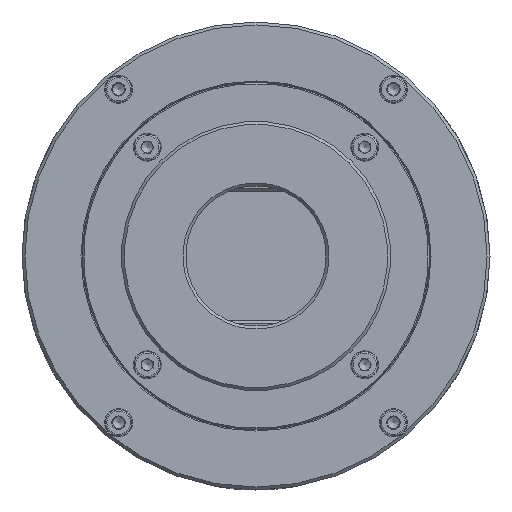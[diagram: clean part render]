
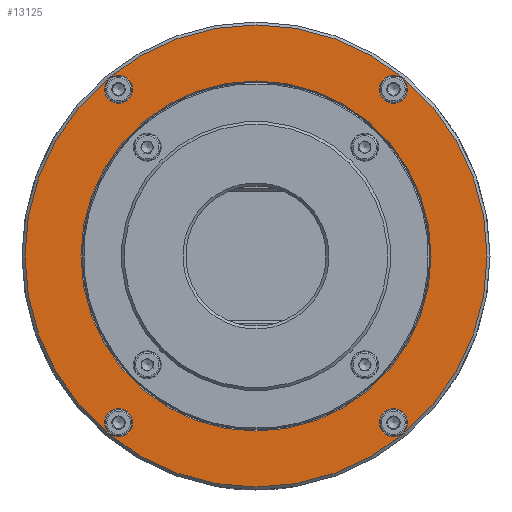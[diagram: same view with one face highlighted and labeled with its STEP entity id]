
A CAD part, front view. The second image highlights one B-rep face of the part: STEP entity #13125.
In plain terms, the highlighted planar face has unit normal (0, -1, 0).
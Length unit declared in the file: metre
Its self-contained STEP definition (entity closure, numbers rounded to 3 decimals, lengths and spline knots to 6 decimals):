
#13125=ADVANCED_FACE('17:85771',(#39166,#39167,#39168,#39169,#39170,#39171),#39172,.T.);
#20749=EDGE_CURVE('17:111547',#51170,#51170,#51171,.T.);
#20751=EDGE_CURVE('17:111550',#51173,#51173,#51174,.T.);
#20753=EDGE_CURVE('17:111553',#51176,#51176,#51177,.T.);
#20755=EDGE_CURVE('17:111556',#51179,#51179,#51180,.T.);
#20757=EDGE_CURVE('17:111559',#51182,#51182,#51183,.T.);
#20759=EDGE_CURVE('17:111562',#51185,#51185,#51186,.T.);
#39166=FACE_OUTER_BOUND('',#75466,.T.);
#39167=FACE_BOUND('',#75467,.T.);
#39168=FACE_BOUND('',#75468,.T.);
#39169=FACE_BOUND('',#75469,.T.);
#39170=FACE_BOUND('',#75470,.T.);
#39171=FACE_BOUND('',#75471,.T.);
#39172=PLANE('',#75472);
#51170=VERTEX_POINT('',#93520);
#51171=CIRCLE('',#93521,0.0395);
#51173=VERTEX_POINT('',#93524);
#51174=CIRCLE('',#93525,0.0024);
#51176=VERTEX_POINT('',#93528);
#51177=CIRCLE('',#93529,0.0024);
#51179=VERTEX_POINT('',#93532);
#51180=CIRCLE('',#93533,0.0024);
#51182=VERTEX_POINT('',#93536);
#51183=CIRCLE('',#93537,0.0024);
#51185=VERTEX_POINT('',#93540);
#51186=CIRCLE('',#93541,0.029925);
#75466=EDGE_LOOP('',(#137746));
#75467=EDGE_LOOP('',(#137747));
#75468=EDGE_LOOP('',(#137748));
#75469=EDGE_LOOP('',(#137749));
#75470=EDGE_LOOP('',(#137750));
#75471=EDGE_LOOP('',(#137751));
#75472=AXIS2_PLACEMENT_3D('',#137752,#137753,#137754);
#93520=CARTESIAN_POINT('',(0.000002,-0.04865,0.066752));
#93521=AXIS2_PLACEMENT_3D('',#170190,#170191,#170192);
#93524=CARTESIAN_POINT('',(0.023502,-0.04865,0.053352));
#93525=AXIS2_PLACEMENT_3D('',#170193,#170194,#170195);
#93528=CARTESIAN_POINT('',(-0.023498,-0.04865,0.053352));
#93529=AXIS2_PLACEMENT_3D('',#170196,#170197,#170198);
#93532=CARTESIAN_POINT('',(0.023502,-0.04865,-0.003648));
#93533=AXIS2_PLACEMENT_3D('',#170199,#170200,#170201);
#93536=CARTESIAN_POINT('',(-0.023498,-0.04865,-0.003648));
#93537=AXIS2_PLACEMENT_3D('',#170202,#170203,#170204);
#93540=CARTESIAN_POINT('',(0.000002,-0.04865,0.057177));
#93541=AXIS2_PLACEMENT_3D('',#170205,#170206,#170207);
#137746=ORIENTED_EDGE('',*,*,#20749,.T.);
#137747=ORIENTED_EDGE('',*,*,#20751,.T.);
#137748=ORIENTED_EDGE('',*,*,#20753,.T.);
#137749=ORIENTED_EDGE('',*,*,#20755,.T.);
#137750=ORIENTED_EDGE('',*,*,#20757,.T.);
#137751=ORIENTED_EDGE('',*,*,#20759,.T.);
#137752=CARTESIAN_POINT('',(0.000002,-0.04865,-0.012748));
#137753=DIRECTION('',(0.,-1.0,0.));
#137754=DIRECTION('',(-1.0,0.,0.0));
#170190=CARTESIAN_POINT('',(0.000002,-0.04865,0.027252));
#170191=DIRECTION('',(0.,-1.0,0.));
#170192=DIRECTION('',(0.,0.,1.0));
#170193=CARTESIAN_POINT('',(0.023502,-0.04865,0.055752));
#170194=DIRECTION('',(0.,1.0,0.));
#170195=DIRECTION('',(0.,0.,-1.0));
#170196=CARTESIAN_POINT('',(-0.023498,-0.04865,0.055752));
#170197=DIRECTION('',(0.,1.0,0.));
#170198=DIRECTION('',(0.,0.,-1.0));
#170199=CARTESIAN_POINT('',(0.023502,-0.04865,-0.001248));
#170200=DIRECTION('',(0.,1.0,0.));
#170201=DIRECTION('',(0.,0.,-1.0));
#170202=CARTESIAN_POINT('',(-0.023498,-0.04865,-0.001248));
#170203=DIRECTION('',(0.,1.0,0.));
#170204=DIRECTION('',(0.,0.,-1.0));
#170205=CARTESIAN_POINT('',(0.000002,-0.04865,0.027252));
#170206=DIRECTION('',(0.,1.0,0.));
#170207=DIRECTION('',(0.,0.,1.0));
